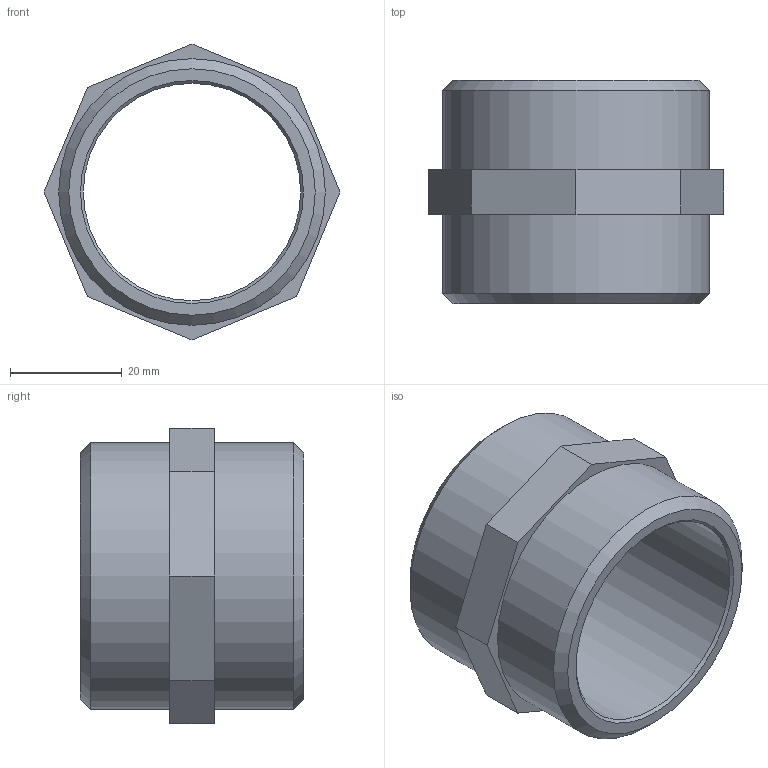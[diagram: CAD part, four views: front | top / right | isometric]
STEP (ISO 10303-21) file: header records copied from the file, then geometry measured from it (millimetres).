
FILE_DESCRIPTION(('STEP AP203'), '1');
FILE_NAME('ÂÐ.753157.017 - VTr.582.N.0008 Íèïïåëü G1 1-2', '2024-07-05T12:14:14', ('Boss'), (''), 'C3D Converter', 'C3D Toolkit', '');
FILE_SCHEMA(('CONFIG_CONTROL_DESIGN'));
Length unit declared in the file: millimetre
Products named in the file (1): ВР.753157.017
Bounding box: 53.04 x 40 x 53.04 mm (x, y, z)
Volume: 25055.1 mm3; surface area: 12198.2 mm2
Topology: 1 solids, 1 shells, 19 faces, 41 edges, 26 vertices
Faces by surface type: plane 12, cone 4, cylinder 3
Full cylindrical faces by diameter (mm): 39 x1, 47.803 x2
Entity records: 513 total; most frequent: DIRECTION 84, CARTESIAN_POINT 80, ORIENTED_EDGE 68, EDGE_CURVE 34, AXIS2_PLACEMENT_3D 30, EDGE_LOOP 30, VERTEX_POINT 26, LINE 24
